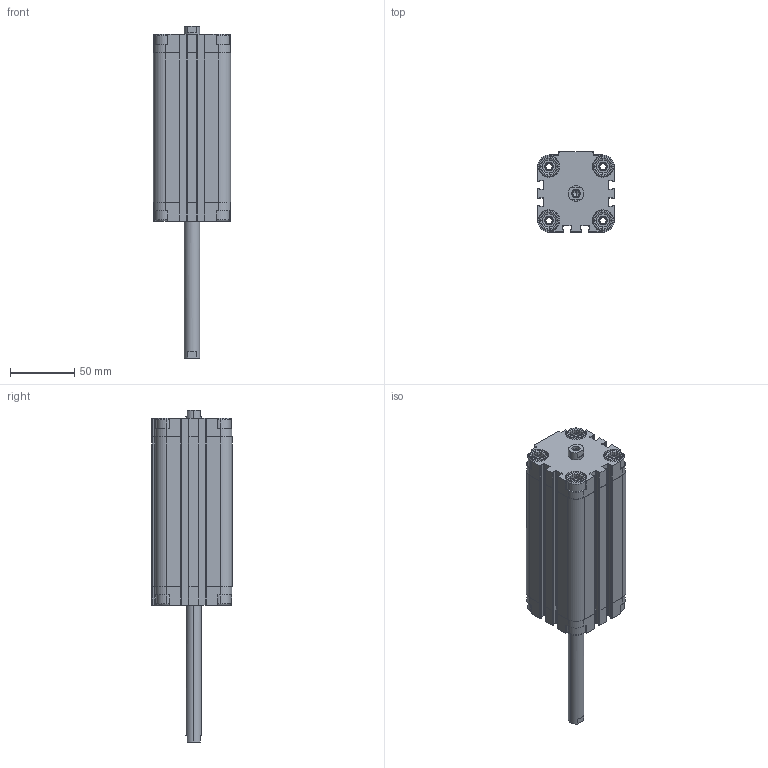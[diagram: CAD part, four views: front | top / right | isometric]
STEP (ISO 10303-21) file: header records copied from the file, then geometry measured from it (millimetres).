
FILE_DESCRIPTION (( 'STEP AP203' ), '1' );
FILE_NAME ('CDVU40-100F-P.STEP', '2020-07-24T18:34:14', ( '' ), ( '' ), 'SwSTEP 2.0', 'SolidWorks 2019', '' );
FILE_SCHEMA (( 'CONFIG_CONTROL_DESIGN' ));
Length unit declared in the file: millimetre
Products named in the file (1): CDVU40-100F-P
Bounding box: 60 x 62.5 x 258.5 mm (x, y, z)
Volume: 360001.3 mm3; surface area: 99131.7 mm2
Topology: 2 solids, 2 shells, 722 faces, 1928 edges, 1244 vertices
Faces by surface type: plane 422, cylinder 236, cone 64
Entity records: 22623 total; most frequent: CARTESIAN_POINT 4463, ORIENTED_EDGE 3840, DIRECTION 3710, EDGE_CURVE 1920, AXIS2_PLACEMENT_3D 1259, VERTEX_POINT 1244, LINE 1192, VECTOR 1192
